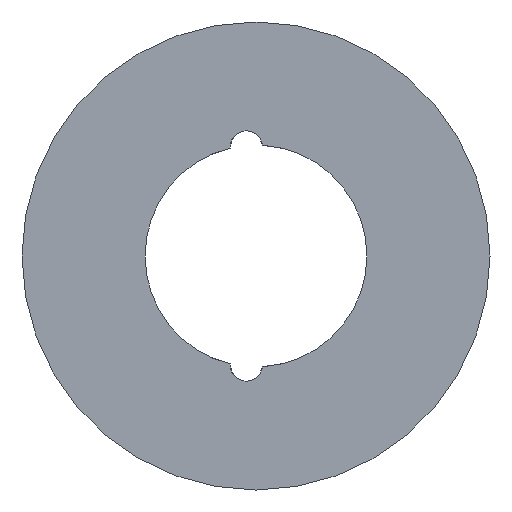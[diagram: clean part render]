
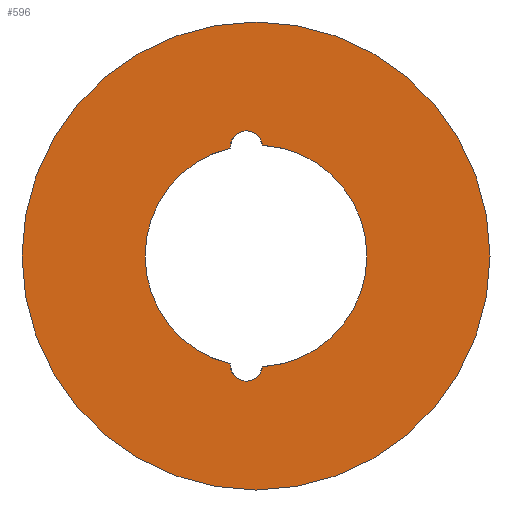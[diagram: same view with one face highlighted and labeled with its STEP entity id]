
A CAD part, left-side view. The second image highlights one B-rep face of the part: STEP entity #596.
In plain terms, the highlighted planar face has unit normal (-1, 0, 0).
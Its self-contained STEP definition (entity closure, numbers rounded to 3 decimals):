
#76=FACE_BOUND('',#120,.T.);
#79=PLANE('',#658);
#84=FACE_OUTER_BOUND('',#119,.T.);
#119=EDGE_LOOP('',(#399));
#120=EDGE_LOOP('',(#400,#401,#402,#403));
#156=CIRCLE('',#654,3.899);
#158=CIRCLE('',#657,3.899);
#159=CIRCLE('',#659,56.5);
#160=CIRCLE('',#660,26.785);
#161=CIRCLE('',#661,26.785);
#232=VERTEX_POINT('',#989);
#234=VERTEX_POINT('',#998);
#236=VERTEX_POINT('',#1008);
#238=VERTEX_POINT('',#1017);
#239=VERTEX_POINT('',#1026);
#298=EDGE_CURVE('',#232,#234,#156,.T.);
#302=EDGE_CURVE('',#236,#238,#158,.T.);
#303=EDGE_CURVE('',#239,#239,#159,.T.);
#304=EDGE_CURVE('',#234,#236,#160,.T.);
#305=EDGE_CURVE('',#238,#232,#161,.T.);
#399=ORIENTED_EDGE('',*,*,#303,.F.);
#400=ORIENTED_EDGE('',*,*,#298,.T.);
#401=ORIENTED_EDGE('',*,*,#304,.T.);
#402=ORIENTED_EDGE('',*,*,#302,.T.);
#403=ORIENTED_EDGE('',*,*,#305,.T.);
#596=ADVANCED_FACE('',(#84,#76),#79,.T.);
#654=AXIS2_PLACEMENT_3D('',#1005,#762,#763);
#657=AXIS2_PLACEMENT_3D('',#1024,#768,#769);
#658=AXIS2_PLACEMENT_3D('',#1025,#770,#771);
#659=AXIS2_PLACEMENT_3D('',#1027,#772,#773);
#660=AXIS2_PLACEMENT_3D('',#1028,#774,#775);
#661=AXIS2_PLACEMENT_3D('',#1029,#776,#777);
#762=DIRECTION('center_axis',(1.,0.,0.));
#763=DIRECTION('ref_axis',(0.,0.,-1.));
#768=DIRECTION('center_axis',(1.,0.,0.));
#769=DIRECTION('ref_axis',(0.,0.,-1.));
#770=DIRECTION('center_axis',(-1.,0.,0.));
#771=DIRECTION('ref_axis',(0.,0.,1.));
#772=DIRECTION('center_axis',(1.,0.,0.));
#773=DIRECTION('ref_axis',(0.,0.,-1.));
#774=DIRECTION('center_axis',(1.,0.,0.));
#775=DIRECTION('ref_axis',(0.,0.,-1.));
#776=DIRECTION('center_axis',(1.,0.,0.));
#777=DIRECTION('ref_axis',(0.,0.,-1.));
#989=CARTESIAN_POINT('',(0.,6.193,26.059));
#998=CARTESIAN_POINT('',(0.,-1.574,26.739));
#1005=CARTESIAN_POINT('Origin',(0.,2.302,26.314));
#1008=CARTESIAN_POINT('',(0.,-1.574,-26.739));
#1017=CARTESIAN_POINT('',(0.,6.193,-26.059));
#1024=CARTESIAN_POINT('Origin',(0.,2.302,-26.314));
#1025=CARTESIAN_POINT('Origin',(0.,56.5,0.));
#1026=CARTESIAN_POINT('',(0.,-56.5,0.));
#1027=CARTESIAN_POINT('Origin',(0.,0.,0.));
#1028=CARTESIAN_POINT('Origin',(0.,0.,0.));
#1029=CARTESIAN_POINT('Origin',(0.,0.,0.));
